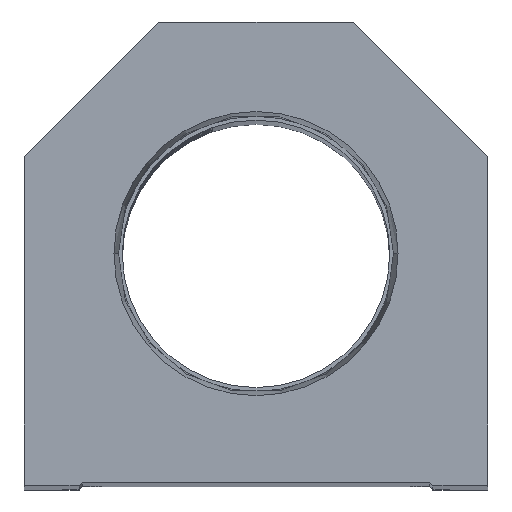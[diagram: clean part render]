
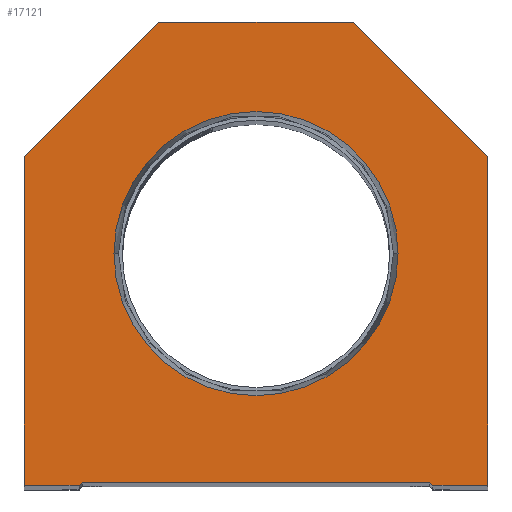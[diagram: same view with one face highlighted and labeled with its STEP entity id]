
A CAD part, top view. The second image highlights one B-rep face of the part: STEP entity #17121.
In plain terms, the highlighted planar face has unit normal (0, 0, 1).
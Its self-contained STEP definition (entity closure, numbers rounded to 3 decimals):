
#179 = DIRECTION ( 'NONE',  ( 0.707, 0.707, 0. ) ) ;
#227 = CARTESIAN_POINT ( 'NONE',  ( 38.1, 54.1, 0. ) ) ;
#395 = VERTEX_POINT ( 'NONE', #4741 ) ;
#779 = ORIENTED_EDGE ( 'NONE', *, *, #10966, .T. ) ;
#1483 = DIRECTION ( 'NONE',  ( 1., 0., 0. ) ) ;
#1611 = DIRECTION ( 'NONE',  ( 0., 0., 1. ) ) ;
#1638 = ORIENTED_EDGE ( 'NONE', *, *, #13672, .T. ) ;
#1700 = VERTEX_POINT ( 'NONE', #13425 ) ;
#1757 = DIRECTION ( 'NONE',  ( 0.707, -0.707, 0. ) ) ;
#1790 = VECTOR ( 'NONE', #3331, 1000. ) ;
#2207 = LINE ( 'NONE', #16827, #15996 ) ;
#2396 = EDGE_CURVE ( 'NONE', #10820, #9904, #14683, .T. ) ;
#2446 = CARTESIAN_POINT ( 'NONE',  ( 38.1, 54.1, 0. ) ) ;
#2496 = VECTOR ( 'NONE', #19460, 1000. ) ;
#2577 = EDGE_CURVE ( 'NONE', #14491, #5706, #19216, .T. ) ;
#3062 = LINE ( 'NONE', #6275, #18374 ) ;
#3331 = DIRECTION ( 'NONE',  ( 1., 0., 0. ) ) ;
#3528 = CARTESIAN_POINT ( 'NONE',  ( 29.1, 0., 0. ) ) ;
#4357 = FACE_OUTER_BOUND ( 'NONE', #12566, .T. ) ;
#4581 = CARTESIAN_POINT ( 'NONE',  ( 0., 0., 0. ) ) ;
#4741 = CARTESIAN_POINT ( 'NONE',  ( -28.6, 0.5, 0. ) ) ;
#4817 = LINE ( 'NONE', #8220, #9929 ) ;
#5127 = ORIENTED_EDGE ( 'NONE', *, *, #7371, .T. ) ;
#5288 = DIRECTION ( 'NONE',  ( 1., 0., 0. ) ) ;
#5329 = CARTESIAN_POINT ( 'NONE',  ( 23.374, 38.1, 0. ) ) ;
#5500 = CIRCLE ( 'NONE', #19210, 23.374 ) ;
#5706 = VERTEX_POINT ( 'NONE', #18325 ) ;
#6275 = CARTESIAN_POINT ( 'NONE',  ( -38.1, 54.1, 0. ) ) ;
#6398 = CARTESIAN_POINT ( 'NONE',  ( -38.1, 0., 0. ) ) ;
#6487 = DIRECTION ( 'NONE',  ( 1., 0., 0. ) ) ;
#6558 = CARTESIAN_POINT ( 'NONE',  ( 16., 76.2, 0. ) ) ;
#6638 = ORIENTED_EDGE ( 'NONE', *, *, #12859, .T. ) ;
#7103 = EDGE_CURVE ( 'NONE', #5706, #395, #4817, .T. ) ;
#7371 = EDGE_CURVE ( 'NONE', #12093, #14491, #14580, .T. ) ;
#7731 = ORIENTED_EDGE ( 'NONE', *, *, #8668, .T. ) ;
#7913 = ORIENTED_EDGE ( 'NONE', *, *, #2396, .T. ) ;
#8014 = ORIENTED_EDGE ( 'NONE', *, *, #11420, .T. ) ;
#8086 = PLANE ( 'NONE',  #17891 ) ;
#8220 = CARTESIAN_POINT ( 'NONE',  ( -14.55, 14.55, 0. ) ) ;
#8335 = LINE ( 'NONE', #11682, #1790 ) ;
#8648 = CARTESIAN_POINT ( 'NONE',  ( 38.1, 0., 0. ) ) ;
#8668 = EDGE_CURVE ( 'NONE', #12726, #15139, #9910, .T. ) ;
#8686 = DIRECTION ( 'NONE',  ( 1., 0., 0. ) ) ;
#9172 = VECTOR ( 'NONE', #19593, 1000. ) ;
#9904 = VERTEX_POINT ( 'NONE', #6558 ) ;
#9910 = LINE ( 'NONE', #17765, #17002 ) ;
#9929 = VECTOR ( 'NONE', #179, 1000. ) ;
#10234 = AXIS2_PLACEMENT_3D ( 'NONE', #13106, #19468, #6487 ) ;
#10820 = VERTEX_POINT ( 'NONE', #2446 ) ;
#10966 = EDGE_CURVE ( 'NONE', #1700, #12093, #3062, .T. ) ;
#11030 = VERTEX_POINT ( 'NONE', #5329 ) ;
#11237 = LINE ( 'NONE', #13122, #9172 ) ;
#11394 = CARTESIAN_POINT ( 'NONE',  ( -28.6, 0., 0. ) ) ;
#11420 = EDGE_CURVE ( 'NONE', #395, #12726, #8335, .T. ) ;
#11682 = CARTESIAN_POINT ( 'NONE',  ( -28.6, 0.5, 0. ) ) ;
#11938 = LINE ( 'NONE', #19989, #20324 ) ;
#12093 = VERTEX_POINT ( 'NONE', #16920 ) ;
#12178 = ORIENTED_EDGE ( 'NONE', *, *, #17435, .F. ) ;
#12195 = ORIENTED_EDGE ( 'NONE', *, *, #16614, .F. ) ;
#12566 = EDGE_LOOP ( 'NONE', ( #12931, #17721, #8014, #7731, #1638, #6638, #7913, #20197, #779, #5127 ) ) ;
#12726 = VERTEX_POINT ( 'NONE', #13200 ) ;
#12859 = EDGE_CURVE ( 'NONE', #15271, #10820, #11938, .T. ) ;
#12931 = ORIENTED_EDGE ( 'NONE', *, *, #2577, .T. ) ;
#13106 = CARTESIAN_POINT ( 'NONE',  ( 0., 38.1, 0. ) ) ;
#13122 = CARTESIAN_POINT ( 'NONE',  ( 16., 76.2, 0. ) ) ;
#13200 = CARTESIAN_POINT ( 'NONE',  ( 28.6, 0.5, 0. ) ) ;
#13425 = CARTESIAN_POINT ( 'NONE',  ( -16., 76.2, 0. ) ) ;
#13672 = EDGE_CURVE ( 'NONE', #15139, #15271, #2207, .T. ) ;
#14160 = DIRECTION ( 'NONE',  ( 1., 0., 0. ) ) ;
#14491 = VERTEX_POINT ( 'NONE', #6398 ) ;
#14580 = LINE ( 'NONE', #14897, #2496 ) ;
#14581 = DIRECTION ( 'NONE',  ( -0.707, -0.707, 0. ) ) ;
#14683 = LINE ( 'NONE', #227, #15923 ) ;
#14897 = CARTESIAN_POINT ( 'NONE',  ( -38.1, 0., 0. ) ) ;
#15139 = VERTEX_POINT ( 'NONE', #3528 ) ;
#15271 = VERTEX_POINT ( 'NONE', #8648 ) ;
#15366 = EDGE_CURVE ( 'NONE', #9904, #1700, #11237, .T. ) ;
#15617 = DIRECTION ( 'NONE',  ( 0., 0., 1. ) ) ;
#15839 = FACE_BOUND ( 'NONE', #16299, .T. ) ;
#15923 = VECTOR ( 'NONE', #19452, 1000. ) ;
#15996 = VECTOR ( 'NONE', #8686, 1000. ) ;
#16270 = VECTOR ( 'NONE', #5288, 1000. ) ;
#16299 = EDGE_LOOP ( 'NONE', ( #12195, #12178 ) ) ;
#16614 = EDGE_CURVE ( 'NONE', #11030, #18537, #18557, .T. ) ;
#16827 = CARTESIAN_POINT ( 'NONE',  ( 28.6, 0., 0. ) ) ;
#16920 = CARTESIAN_POINT ( 'NONE',  ( -38.1, 54.1, 0. ) ) ;
#17002 = VECTOR ( 'NONE', #1757, 1000. ) ;
#17121 = ADVANCED_FACE ( 'NONE', ( #15839, #4357 ), #8086, .T. ) ;
#17435 = EDGE_CURVE ( 'NONE', #18537, #11030, #5500, .T. ) ;
#17569 = CARTESIAN_POINT ( 'NONE',  ( 0., 38.1, 0. ) ) ;
#17721 = ORIENTED_EDGE ( 'NONE', *, *, #7103, .T. ) ;
#17765 = CARTESIAN_POINT ( 'NONE',  ( 14.55, 14.55, 0. ) ) ;
#17891 = AXIS2_PLACEMENT_3D ( 'NONE', #4581, #1611, #14160 ) ;
#18201 = DIRECTION ( 'NONE',  ( 0., 1., 0. ) ) ;
#18325 = CARTESIAN_POINT ( 'NONE',  ( -29.1, 0., 0. ) ) ;
#18374 = VECTOR ( 'NONE', #14581, 1000. ) ;
#18537 = VERTEX_POINT ( 'NONE', #18608 ) ;
#18557 = CIRCLE ( 'NONE', #10234, 23.374 ) ;
#18608 = CARTESIAN_POINT ( 'NONE',  ( -23.374, 38.1, 0. ) ) ;
#19210 = AXIS2_PLACEMENT_3D ( 'NONE', #17569, #15617, #1483 ) ;
#19216 = LINE ( 'NONE', #11394, #16270 ) ;
#19452 = DIRECTION ( 'NONE',  ( -0.707, 0.707, 0. ) ) ;
#19460 = DIRECTION ( 'NONE',  ( 0., -1., 0. ) ) ;
#19468 = DIRECTION ( 'NONE',  ( 0., 0., 1. ) ) ;
#19593 = DIRECTION ( 'NONE',  ( -1., 0., 0. ) ) ;
#19989 = CARTESIAN_POINT ( 'NONE',  ( 38.1, 0., 0. ) ) ;
#20197 = ORIENTED_EDGE ( 'NONE', *, *, #15366, .T. ) ;
#20324 = VECTOR ( 'NONE', #18201, 1000. ) ;
